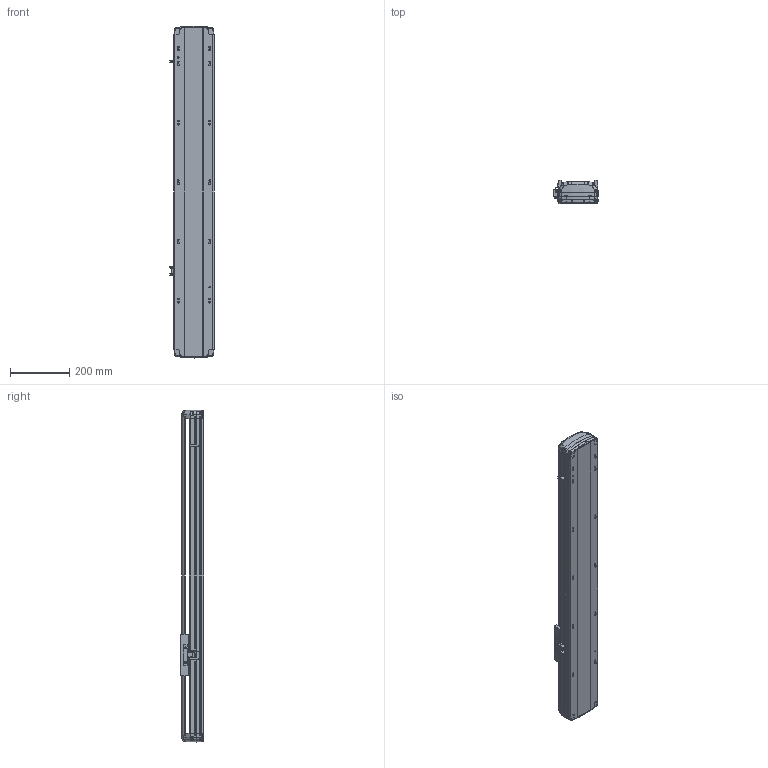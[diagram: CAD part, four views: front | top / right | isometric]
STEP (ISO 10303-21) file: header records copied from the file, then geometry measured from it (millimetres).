
FILE_DESCRIPTION (( 'STEP AP214' ), '1' );
FILE_NAME ('RTH14-XX-700-B-M20B-C4.STEP', '2025-10-24T08:38:23', ( 'Microsoft' ), ( 'Microsoft' ), 'SwSTEP 2.0', 'SolidWorks 2018', '' );
FILE_SCHEMA (( 'AUTOMOTIVE_DESIGN' ));
Length unit declared in the file: millimetre
Products named in the file (7): RTH14-XX-700-B-M20B-C4; N_OMRON EE-SX672 传感器^RTH14-XX-XX-B-M20B-C4; N_RTH14-B-011PB菁釱^RTH14-XX-XX-B-M20B-C4; N_RTH14-B-007B奻裔^RTH14-XX-XX-B-M20B-C4; N_RTH14-R-004-SFSR16賑釱^RTH14-XX-XX-B-M20B-C4; N_RTH14-GY-001P^RTH14-XX-XX-B-M20B-C4; N_RTH13-L-012感应片（外置）^RTH14-XX-XX-B-M20B-C4
Assembly tree (9 placements, depth 2):
  RTH14-XX-700-B-M20B-C4
    N_RTH14-B-011PB菁釱^RTH14-XX-XX-B-M20B-C4
    N_RTH14-B-007B奻裔^RTH14-XX-XX-B-M20B-C4
    N_RTH13-L-012感应片（外置）^RTH14-XX-XX-B-M20B-C4
    N_OMRON EE-SX672 传感器^RTH14-XX-XX-B-M20B-C4  x3
    N_RTH14-R-004-SFSR16賑釱^RTH14-XX-XX-B-M20B-C4
    N_RTH14-GY-001P^RTH14-XX-XX-B-M20B-C4  x2
Bounding box: 148.5 x 78.03 x 1118.99 mm (x, y, z)
Volume: 4575573 mm3; surface area: 1056068.6 mm2
Topology: 9 solids, 9 shells, 1936 faces, 5458 edges, 3554 vertices
Faces by surface type: plane 983, bspline 450, cylinder 439, cone 56, torus 8
Entity records: 47302 total; most frequent: CARTESIAN_POINT 21030, ORIENTED_EDGE 5932, DIRECTION 4389, EDGE_CURVE 2966, VERTEX_POINT 1940, LINE 1661, VECTOR 1661, AXIS2_PLACEMENT_3D 1364
